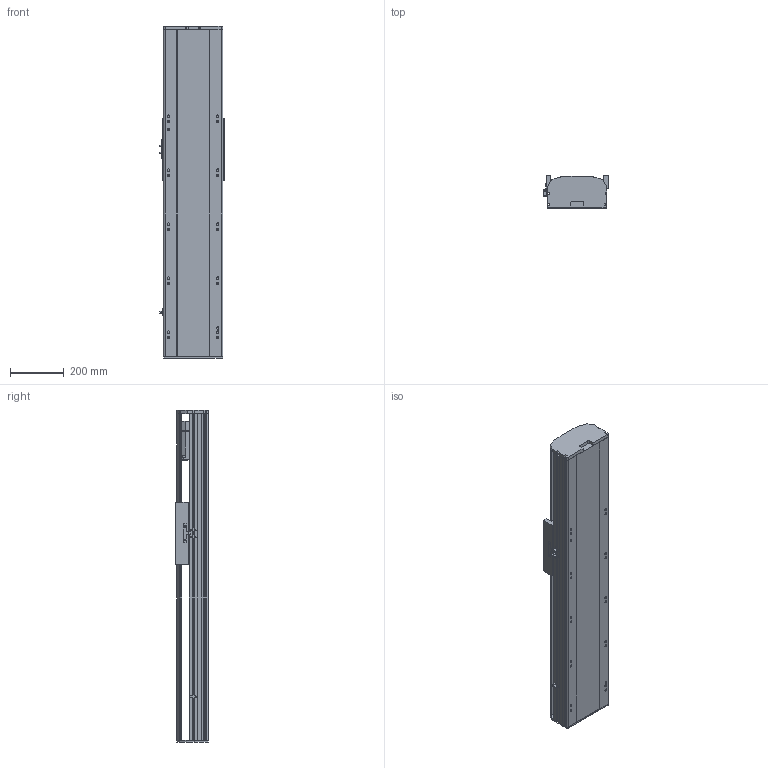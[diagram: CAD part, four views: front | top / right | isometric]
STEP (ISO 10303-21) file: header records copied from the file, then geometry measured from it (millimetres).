
FILE_DESCRIPTION (( 'STEP AP214' ), '1' );
FILE_NAME ('RTH22-XX-600-B-M75B-C4.STEP', '2025-10-24T10:08:53', ( 'Microsoft' ), ( 'Microsoft' ), 'SwSTEP 2.0', 'SolidWorks 2018', '' );
FILE_SCHEMA (( 'AUTOMOTIVE_DESIGN' ));
Length unit declared in the file: millimetre
Products named in the file (9): RTH22-XX-600-B-M75B-C4; N_750W萇儂^RTH22-XX-XX-B-M75B-C4; N_RTH22-B-007B奻裔^RTH22-XX-XX-B-M75B-C4; N_RTH22-GY-013外置感应片^RTH22-XX-XX-B-M75B-C4; N_OMRON EE-SX672 传感器^RTH22-XX-XX-B-M75B-C4; N_RTH22-B-011B菁釱^RTH22-XX-XX-B-M75B-C4; N_RTH22-B008萇儂啣^RTH22-XX-XX-B-M75B-C4; N_RTH22-GY-001耜裔^RTH22-XX-XX-B-M75B-C4; N_RTH22-E-004-SFS25賑釱^RTH22-XX-XX-B-M75B-C4
Assembly tree (10 placements, depth 2):
  RTH22-XX-600-B-M75B-C4
    N_RTH22-B-011B菁釱^RTH22-XX-XX-B-M75B-C4
    N_RTH22-GY-001耜裔^RTH22-XX-XX-B-M75B-C4
    N_750W萇儂^RTH22-XX-XX-B-M75B-C4
    N_RTH22-B008萇儂啣^RTH22-XX-XX-B-M75B-C4
    N_RTH22-B-007B奻裔^RTH22-XX-XX-B-M75B-C4
    N_OMRON EE-SX672 传感器^RTH22-XX-XX-B-M75B-C4  x3
    N_RTH22-GY-013外置感应片^RTH22-XX-XX-B-M75B-C4
    N_RTH22-E-004-SFS25賑釱^RTH22-XX-XX-B-M75B-C4
Bounding box: 238.5 x 122 x 1230 mm (x, y, z)
Volume: 17284547.5 mm3; surface area: 1795105.8 mm2
Topology: 10 solids, 10 shells, 1497 faces, 4100 edges, 2653 vertices
Faces by surface type: plane 750, cylinder 418, bspline 279, cone 50
Entity records: 36775 total; most frequent: CARTESIAN_POINT 11549, ORIENTED_EDGE 5192, DIRECTION 4834, EDGE_CURVE 2596, VERTEX_POINT 1689, LINE 1614, VECTOR 1614, AXIS2_PLACEMENT_3D 1610
